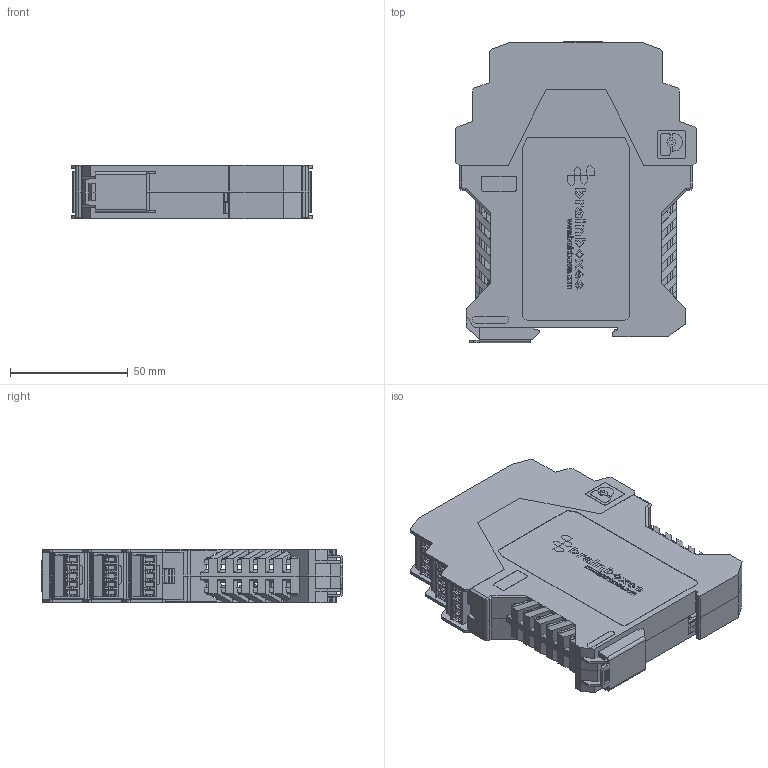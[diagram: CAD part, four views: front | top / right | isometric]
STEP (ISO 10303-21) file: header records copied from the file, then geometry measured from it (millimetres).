
FILE_DESCRIPTION(('STEP AP214'),'1');
FILE_NAME('ED-582-593 Cased 3D Step.step','2020-12-17T13:36:09',(' '),(' '),'Spatial InterOp 3D','XD3DPlugin XRACreate',' ');
FILE_SCHEMA(('automotive_design'));
Length unit declared in the file: millimetre
Products named in the file (46): Submodel-Input_S\82HEA3MM5TBX5_R_GREY_0.xtd; 82HEA3MM5TBX5_R_GREY_0; Submodel-82HEA3MM5TBX5_R_YELLOW_part_simplified_TBX5_RIGHT; DesignRootModel; Submodel-Input_S\82HEA3MM5TBX5_L_BLACK.xtd; 82HEA3MM5TBX5_L_BLACK; Submodel-82HEA3MM5TBX5_L_BLACK_part_simplified_TBX5_LEFT; Submodel-Input_S\50HEA3X1.xtd; 50HEA3X1; Submodel-50HEA3X1_part_simplified_H100MIL1X3; Submodel-Input_S\10NKE0303SC.xtd; 10NKE0303SC; Submodel-10NKE0303SC_part_simplified_SIP4; Submodel-Input_S\00MAGJACKILED.xtd; 00MAGJACKILED; Submodel-00MAGJACKILED_part_simplified_MAGJACK_LEDS; Submodel-Input_S\6610UH5A5.xtd; 6610UH5A5; Submodel-6610UH5A5_part_simplified_SRR1260; Submodel-Input_S\50HEA2X3.xtd; 50HEA2X3; Submodel-50HEA3X2_part_simplified_H100MIL2X3; Submodel-Input_S\LEDX2BLOCK_RESET_0.xtd; LEDX2BLOCK_RESET_0; Submodel-55LEDX2REDGREEN_part_simplified_LEDX2BLOCK; Submodel-Input_S\40SMTBUTTON_0.xtd; 40SMTBUTTON_0; Submodel-40SMTBUTTON_part_simplified_SMTBUTTON; Submodel-Input_S\SMC.xtd; SMC; Submodel-55TZ1K5SMC36V_part_simplified_SMC; Submodel-Input_S\50HEA4X2.xtd; 50HEA4X2; Submodel-50HEA4X2_part_simplified_H100MIL2X4; uid__9223372036854788540; Submodel-AssyDefn_20; BrainboxesLogo.step; Submodel-AssyDefn_19; EDCase3Way.sat; Submodel-noModelForPart_DATUM_2441444698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
Assembly tree (56 placements, depth 5):
  ED-582-593 Cased 3D Step
    DesignRootModel
      Submodel-82HEA3MM5TBX5_R_YELLOW_part_simplified_TBX5_RIGHT  x3
        Submodel-Input_S\82HEA3MM5TBX5_R_GREY_0.xtd
          82HEA3MM5TBX5_R_GREY_0
      Submodel-82HEA3MM5TBX5_L_BLACK_part_simplified_TBX5_LEFT  x3
        Submodel-Input_S\82HEA3MM5TBX5_L_BLACK.xtd
          82HEA3MM5TBX5_L_BLACK
      Submodel-50HEA3X1_part_simplified_H100MIL1X3  x5
        Submodel-Input_S\50HEA3X1.xtd
          50HEA3X1
      Submodel-10NKE0303SC_part_simplified_SIP4
        Submodel-Input_S\10NKE0303SC.xtd
          10NKE0303SC
      Submodel-00MAGJACKILED_part_simplified_MAGJACK_LEDS
        Submodel-Input_S\00MAGJACKILED.xtd
          00MAGJACKILED
      Submodel-6610UH5A5_part_simplified_SRR1260
        Submodel-Input_S\6610UH5A5.xtd
          6610UH5A5
      Submodel-50HEA3X2_part_simplified_H100MIL2X3
        Submodel-Input_S\50HEA2X3.xtd
          50HEA2X3
      Submodel-55LEDX2REDGREEN_part_simplified_LEDX2BLOCK
        Submodel-Input_S\LEDX2BLOCK_RESET_0.xtd
          LEDX2BLOCK_RESET_0
      Submodel-40SMTBUTTON_part_simplified_SMTBUTTON
        Submodel-Input_S\40SMTBUTTON_0.xtd
          40SMTBUTTON_0
      Submodel-55TZ1K5SMC36V_part_simplified_SMC  x3
        Submodel-Input_S\SMC.xtd
          SMC
      Submodel-50HEA4X2_part_simplified_H100MIL2X4
        Submodel-Input_S\50HEA4X2.xtd
          50HEA4X2
      uid__9223372036854788540
      Submodel-AssyDefn_20  x2
        BrainboxesLogo.step
      Submodel-AssyDefn_19
        EDCase3Way.sat
      Submodel-DATUM_2441444698_part_DATUM
        Submodel-noModelForPart_DATUM_2441444698
          placementOutline
      Submodel-CHASSISPINS_1097425168_part_CHASSISPINS
        Submodel-noModelForPart_CHASSISPINS_1097425168
          placementOutline
Bounding box: 102 x 127.89 x 22.6 mm (x, y, z)
Volume: 109802 mm3; surface area: 137583.8 mm2
Topology: 217 solids, 217 shells, 14436 faces, 38894 edges, 25269 vertices
Faces by surface type: plane 10996, cylinder 2409, bspline 603, torus 210, cone 197, sphere 21
Full cylindrical faces by diameter (mm): 0.6 x2, 1 x1, 3.81 x1
Entity records: 473882 total; most frequent: CARTESIAN_POINT 80604, ORIENTED_EDGE 63222, DIRECTION 59149, EDGE_CURVE 31611, LINE 25385, VECTOR 25385, VERTEX_POINT 20501, AXIS2_PLACEMENT_3D 16882
